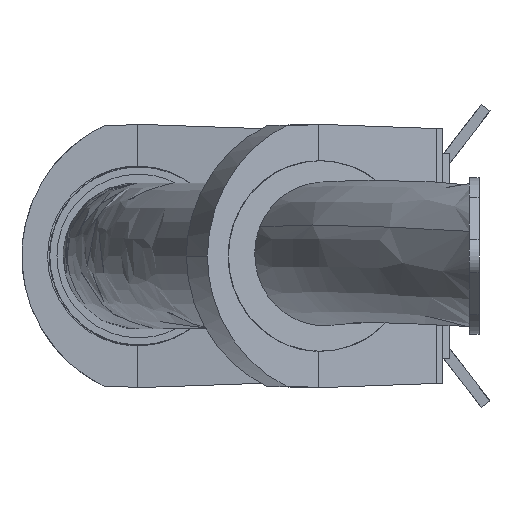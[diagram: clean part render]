
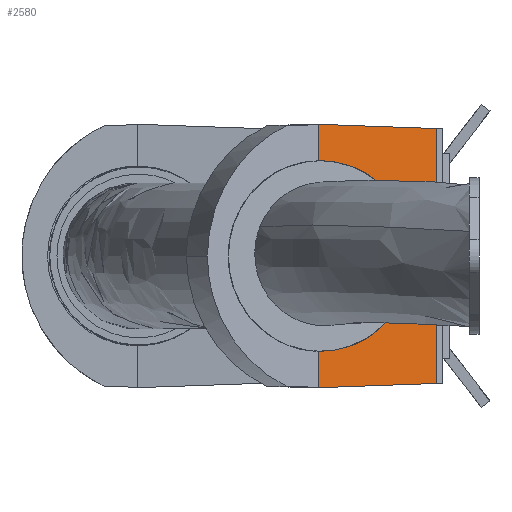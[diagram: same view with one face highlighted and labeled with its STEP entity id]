
A CAD part, left-side view. The second image highlights one B-rep face of the part: STEP entity #2580.
In plain terms, the highlighted planar face has unit normal (-0.974, -0.225, 0).
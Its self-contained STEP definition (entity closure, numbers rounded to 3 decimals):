
#699 = CARTESIAN_POINT ( 'NONE',  ( 896.468, 114.886, 2159.987 ) ) ;
#756 = VECTOR ( 'NONE', #13162, 1000. ) ;
#1043 = CARTESIAN_POINT ( 'NONE',  ( 893.305, 128.584, 2259.987 ) ) ;
#2353 =( BOUNDED_CURVE ( )  B_SPLINE_CURVE ( 3, ( #13077, #20085, #4730, #18571 ),
 .UNSPECIFIED., .F., .T. ) 
 B_SPLINE_CURVE_WITH_KNOTS ( ( 4, 4 ),
 ( 3.142, 4.726 ),
 .UNSPECIFIED. ) 
 CURVE ( )  GEOMETRIC_REPRESENTATION_ITEM ( )  RATIONAL_B_SPLINE_CURVE ( ( 1., 0.802, 0.802, 1. ) ) 
 REPRESENTATION_ITEM ( '' )  );
#2580 = ADVANCED_FACE ( 'NONE', ( #19815 ), #13059, .F. ) ;
#3147 = CARTESIAN_POINT ( 'NONE',  ( 881.09, 181.494, 2185.987 ) ) ;
#4059 = ORIENTED_EDGE ( 'NONE', *, *, #9404, .F. ) ;
#4420 = VERTEX_POINT ( 'NONE', #1043 ) ;
#4527 = VECTOR ( 'NONE', #5551, 1000. ) ;
#4730 = CARTESIAN_POINT ( 'NONE',  ( 888.226, 150.587, 2313.958 ) ) ;
#5551 = DIRECTION ( 'NONE',  ( 0., 0., -1. ) ) ;
#5633 = CARTESIAN_POINT ( 'NONE',  ( 881.09, 181.494, 2206.442 ) ) ;
#5763 = ORIENTED_EDGE ( 'NONE', *, *, #9482, .T. ) ;
#6562 = CARTESIAN_POINT ( 'NONE',  ( 881.09, 181.494, 2185.987 ) ) ;
#6598 = CARTESIAN_POINT ( 'NONE',  ( 881.09, 181.494, 2333.987 ) ) ;
#6726 = CARTESIAN_POINT ( 'NONE',  ( 896.468, 114.886, 2188.373 ) ) ;
#6787 = LINE ( 'NONE', #18575, #756 ) ;
#7012 = DIRECTION ( 'NONE',  ( 0., 0., -1. ) ) ;
#8151 = LINE ( 'NONE', #6562, #22001 ) ;
#8754 = DIRECTION ( 'NONE',  ( 0., 0., -1. ) ) ;
#8801 = ORIENTED_EDGE ( 'NONE', *, *, #9328, .F. ) ;
#9275 = VERTEX_POINT ( 'NONE', #3147 ) ;
#9328 = EDGE_CURVE ( 'NONE', #19090, #24472, #16029, .T. ) ;
#9404 = EDGE_CURVE ( 'NONE', #17092, #4420, #17220, .T. ) ;
#9482 = EDGE_CURVE ( 'NONE', #19090, #18855, #18973, .T. ) ;
#9732 = EDGE_CURVE ( 'NONE', #18855, #20583, #11871, .T. ) ;
#10012 = CARTESIAN_POINT ( 'NONE',  ( 893.305, 128.584, 2228.284 ) ) ;
#10095 = CARTESIAN_POINT ( 'NONE',  ( 896.468, 114.886, 2331.602 ) ) ;
#10705 = EDGE_CURVE ( 'NONE', #4420, #20583, #2353, .T. ) ;
#10847 = ORIENTED_EDGE ( 'NONE', *, *, #17203, .T. ) ;
#11871 = LINE ( 'NONE', #21752, #20667 ) ;
#12149 = DIRECTION ( 'NONE',  ( -0.225, 0.974, 0.035 ) ) ;
#12607 = DIRECTION ( 'NONE',  ( -0.225, 0.974, 0. ) ) ;
#12633 = DIRECTION ( 'NONE',  ( 0.974, 0.225, 0. ) ) ;
#12642 = ORIENTED_EDGE ( 'NONE', *, *, #17603, .T. ) ;
#12681 = CARTESIAN_POINT ( 'NONE',  ( 880.042, 186.035, 2159.987 ) ) ;
#13059 = PLANE ( 'NONE',  #14245 ) ;
#13077 = CARTESIAN_POINT ( 'NONE',  ( 893.305, 128.584, 2259.987 ) ) ;
#13162 = DIRECTION ( 'NONE',  ( 0.225, -0.974, 0.035 ) ) ;
#13653 = VECTOR ( 'NONE', #12149, 1000. ) ;
#13889 = CARTESIAN_POINT ( 'NONE',  ( 888.226, 150.587, 2206.017 ) ) ;
#14245 = AXIS2_PLACEMENT_3D ( 'NONE', #12681, #12633, #12607 ) ;
#15997 = EDGE_LOOP ( 'NONE', ( #4059, #10847, #12642, #8801, #5763, #17870, #16740 ) ) ;
#16029 = LINE ( 'NONE', #699, #4527 ) ;
#16740 = ORIENTED_EDGE ( 'NONE', *, *, #10705, .F. ) ;
#17092 = VERTEX_POINT ( 'NONE', #23988 ) ;
#17203 = EDGE_CURVE ( 'NONE', #17092, #9275, #8151, .T. ) ;
#17220 =( BOUNDED_CURVE ( )  B_SPLINE_CURVE ( 3, ( #5633, #13889, #10012, #22241 ),
 .UNSPECIFIED., .F., .T. ) 
 B_SPLINE_CURVE_WITH_KNOTS ( ( 4, 4 ),
 ( 1.557, 3.142 ),
 .UNSPECIFIED. ) 
 CURVE ( )  GEOMETRIC_REPRESENTATION_ITEM ( )  RATIONAL_B_SPLINE_CURVE ( ( 1., 0.802, 0.802, 1. ) ) 
 REPRESENTATION_ITEM ( '' )  );
#17603 = EDGE_CURVE ( 'NONE', #9275, #24472, #6787, .T. ) ;
#17862 = CARTESIAN_POINT ( 'NONE',  ( 881.09, 181.494, 2313.533 ) ) ;
#17870 = ORIENTED_EDGE ( 'NONE', *, *, #9732, .T. ) ;
#18366 = CARTESIAN_POINT ( 'NONE',  ( 896.468, 114.886, 2331.602 ) ) ;
#18571 = CARTESIAN_POINT ( 'NONE',  ( 881.09, 181.494, 2313.533 ) ) ;
#18575 = CARTESIAN_POINT ( 'NONE',  ( 881.09, 181.494, 2185.987 ) ) ;
#18855 = VERTEX_POINT ( 'NONE', #6598 ) ;
#18973 = LINE ( 'NONE', #10095, #13653 ) ;
#19090 = VERTEX_POINT ( 'NONE', #18366 ) ;
#19815 = FACE_OUTER_BOUND ( 'NONE', #15997, .T. ) ;
#20085 = CARTESIAN_POINT ( 'NONE',  ( 893.305, 128.584, 2291.691 ) ) ;
#20583 = VERTEX_POINT ( 'NONE', #17862 ) ;
#20667 = VECTOR ( 'NONE', #7012, 1000. ) ;
#21752 = CARTESIAN_POINT ( 'NONE',  ( 881.09, 181.494, 2185.987 ) ) ;
#22001 = VECTOR ( 'NONE', #8754, 1000. ) ;
#22241 = CARTESIAN_POINT ( 'NONE',  ( 893.305, 128.584, 2259.987 ) ) ;
#23988 = CARTESIAN_POINT ( 'NONE',  ( 881.09, 181.494, 2206.442 ) ) ;
#24472 = VERTEX_POINT ( 'NONE', #6726 ) ;
